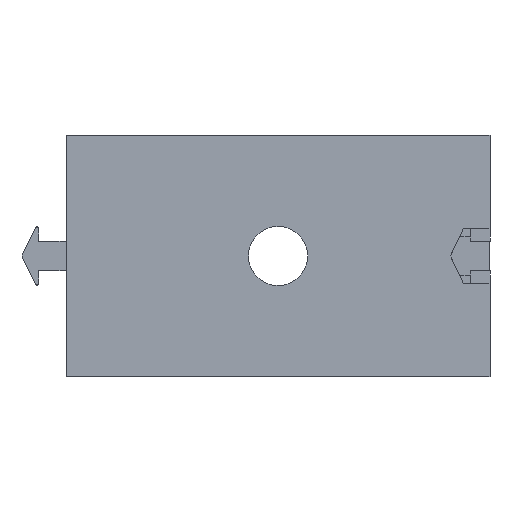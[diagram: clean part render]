
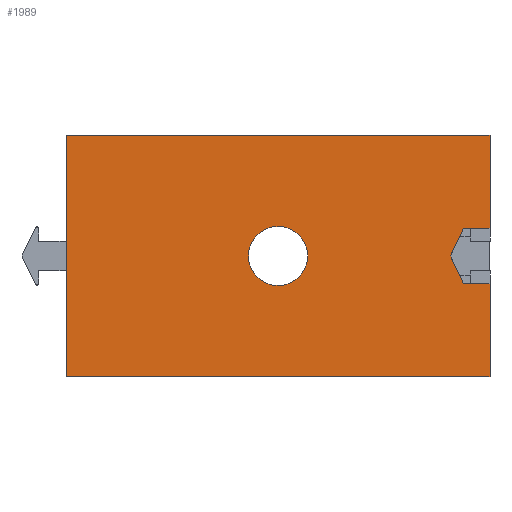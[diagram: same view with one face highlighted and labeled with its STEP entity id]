
A CAD part, front view. The second image highlights one B-rep face of the part: STEP entity #1989.
In plain terms, the highlighted planar face has unit normal (0, -1, 0).
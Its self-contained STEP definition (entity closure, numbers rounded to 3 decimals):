
#108 = VERTEX_POINT ( 'NONE', #2687 ) ;
#109 = ORIENTED_EDGE ( 'NONE', *, *, #1966, .F. ) ;
#296 = VERTEX_POINT ( 'NONE', #3019 ) ;
#299 = EDGE_CURVE ( 'NONE', #296, #309, #3030, .T. ) ;
#309 = VERTEX_POINT ( 'NONE', #3058 ) ;
#316 = VERTEX_POINT ( 'NONE', #3055 ) ;
#344 = VERTEX_POINT ( 'NONE', #3072 ) ;
#350 = EDGE_CURVE ( 'NONE', #316, #344, #3116, .T. ) ;
#355 = VERTEX_POINT ( 'NONE', #3105 ) ;
#359 = VERTEX_POINT ( 'NONE', #3126 ) ;
#360 = EDGE_CURVE ( 'NONE', #359, #355, #3153, .T. ) ;
#739 = VERTEX_POINT ( 'NONE', #3858 ) ;
#759 = EDGE_CURVE ( 'NONE', #739, #770, #3876, .T. ) ;
#770 = VERTEX_POINT ( 'NONE', #3911 ) ;
#782 = ORIENTED_EDGE ( 'NONE', *, *, #299, .T. ) ;
#1952 = EDGE_LOOP ( 'NONE', ( #1955, #1956 ) ) ;
#1953 = ORIENTED_EDGE ( 'NONE', *, *, #1962, .F. ) ;
#1955 = ORIENTED_EDGE ( 'NONE', *, *, #2020, .T. ) ;
#1956 = ORIENTED_EDGE ( 'NONE', *, *, #759, .T. ) ;
#1962 = EDGE_CURVE ( 'NONE', #344, #309, #4648, .T. ) ;
#1966 = EDGE_CURVE ( 'NONE', #355, #108, #4611, .T. ) ;
#1969 = ORIENTED_EDGE ( 'NONE', *, *, #1979, .T. ) ;
#1971 = EDGE_LOOP ( 'NONE', ( #1992, #1988, #1977, #1972, #109, #1987, #1969, #782, #1953 ) ) ;
#1972 = ORIENTED_EDGE ( 'NONE', *, *, #1978, .F. ) ;
#1976 = VERTEX_POINT ( 'NONE', #4644 ) ;
#1977 = ORIENTED_EDGE ( 'NONE', *, *, #1991, .F. ) ;
#1978 = EDGE_CURVE ( 'NONE', #108, #1983, #4702, .T. ) ;
#1979 = EDGE_CURVE ( 'NONE', #359, #296, #4650, .T. ) ;
#1983 = VERTEX_POINT ( 'NONE', #4642 ) ;
#1987 = ORIENTED_EDGE ( 'NONE', *, *, #360, .F. ) ;
#1988 = ORIENTED_EDGE ( 'NONE', *, *, #1990, .F. ) ;
#1989 = ADVANCED_FACE ( 'NONE', ( #4690, #4689 ), #4684, .F. ) ;
#1990 = EDGE_CURVE ( 'NONE', #1976, #316, #4682, .T. ) ;
#1991 = EDGE_CURVE ( 'NONE', #1983, #1976, #4638, .T. ) ;
#1992 = ORIENTED_EDGE ( 'NONE', *, *, #350, .F. ) ;
#2020 = EDGE_CURVE ( 'NONE', #770, #739, #4746, .T. ) ;
#2687 = CARTESIAN_POINT ( 'NONE',  ( 18.806, -26.2, 2.8 ) ) ;
#3011 = DIRECTION ( 'NONE',  ( 0., 0., -1. ) ) ;
#3016 = VECTOR ( 'NONE', #3011, 1000. ) ;
#3019 = CARTESIAN_POINT ( 'NONE',  ( -21.5, -26.2, 12.25 ) ) ;
#3022 = CARTESIAN_POINT ( 'NONE',  ( -21.5, -26.2, 0. ) ) ;
#3030 = LINE ( 'NONE', #3022, #3016 ) ;
#3055 = CARTESIAN_POINT ( 'NONE',  ( 21.5, -26.2, -2.8 ) ) ;
#3058 = CARTESIAN_POINT ( 'NONE',  ( -21.5, -26.2, -12.25 ) ) ;
#3072 = CARTESIAN_POINT ( 'NONE',  ( 21.5, -26.2, -12.25 ) ) ;
#3105 = CARTESIAN_POINT ( 'NONE',  ( 21.5, -26.2, 2.8 ) ) ;
#3111 = DIRECTION ( 'NONE',  ( 0., 0., -1. ) ) ;
#3112 = VECTOR ( 'NONE', #3111, 1000. ) ;
#3113 = CARTESIAN_POINT ( 'NONE',  ( 21.5, -26.2, 0. ) ) ;
#3116 = LINE ( 'NONE', #3113, #3112 ) ;
#3126 = CARTESIAN_POINT ( 'NONE',  ( 21.5, -26.2, 12.25 ) ) ;
#3150 = DIRECTION ( 'NONE',  ( 0., 0., -1. ) ) ;
#3151 = VECTOR ( 'NONE', #3150, 1000. ) ;
#3152 = CARTESIAN_POINT ( 'NONE',  ( 21.5, -26.2, 0. ) ) ;
#3153 = LINE ( 'NONE', #3152, #3151 ) ;
#3858 = CARTESIAN_POINT ( 'NONE',  ( 0., -26.2, -3. ) ) ;
#3863 = DIRECTION ( 'NONE',  ( 0., 0., 1. ) ) ;
#3864 = DIRECTION ( 'NONE',  ( 0., 1., 0. ) ) ;
#3865 = CARTESIAN_POINT ( 'NONE',  ( 0., -26.2, 0. ) ) ;
#3876 = CIRCLE ( 'NONE', #3877, 3. ) ;
#3877 = AXIS2_PLACEMENT_3D ( 'NONE', #3865, #3864, #3863 ) ;
#3911 = CARTESIAN_POINT ( 'NONE',  ( 0., -26.2, 3. ) ) ;
#4611 = LINE ( 'NONE', #4649, #4641 ) ;
#4638 = LINE ( 'NONE', #4673, #4672 ) ;
#4640 = DIRECTION ( 'NONE',  ( -1., 0., 0. ) ) ;
#4641 = VECTOR ( 'NONE', #4640, 1000. ) ;
#4642 = CARTESIAN_POINT ( 'NONE',  ( 17.5, -26.2, 0. ) ) ;
#4643 = CARTESIAN_POINT ( 'NONE',  ( 19.5, -26.2, -2.8 ) ) ;
#4644 = CARTESIAN_POINT ( 'NONE',  ( 18.806, -26.2, -2.8 ) ) ;
#4645 = DIRECTION ( 'NONE',  ( -1., 0., 0. ) ) ;
#4646 = VECTOR ( 'NONE', #4645, 1000. ) ;
#4647 = CARTESIAN_POINT ( 'NONE',  ( 21.5, -26.2, -12.25 ) ) ;
#4648 = LINE ( 'NONE', #4647, #4646 ) ;
#4649 = CARTESIAN_POINT ( 'NONE',  ( 19.5, -26.2, 2.8 ) ) ;
#4650 = LINE ( 'NONE', #4693, #4692 ) ;
#4671 = DIRECTION ( 'NONE',  ( 0.423, 0., -0.906 ) ) ;
#4672 = VECTOR ( 'NONE', #4671, 1000. ) ;
#4673 = CARTESIAN_POINT ( 'NONE',  ( 17.5, -26.2, 0. ) ) ;
#4675 = DIRECTION ( 'NONE',  ( 1., 0., 0. ) ) ;
#4676 = VECTOR ( 'NONE', #4675, 1000. ) ;
#4678 = DIRECTION ( 'NONE',  ( 0., 0., 1. ) ) ;
#4679 = DIRECTION ( 'NONE',  ( 0., 1., 0. ) ) ;
#4680 = CARTESIAN_POINT ( 'NONE',  ( 21.5, -26.2, 0. ) ) ;
#4681 = AXIS2_PLACEMENT_3D ( 'NONE', #4680, #4679, #4678 ) ;
#4682 = LINE ( 'NONE', #4643, #4676 ) ;
#4684 = PLANE ( 'NONE',  #4681 ) ;
#4689 = FACE_BOUND ( 'NONE', #1952, .T. ) ;
#4690 = FACE_OUTER_BOUND ( 'NONE', #1971, .T. ) ;
#4691 = DIRECTION ( 'NONE',  ( -1., 0., 0. ) ) ;
#4692 = VECTOR ( 'NONE', #4691, 1000. ) ;
#4693 = CARTESIAN_POINT ( 'NONE',  ( 21.5, -26.2, 12.25 ) ) ;
#4695 = DIRECTION ( 'NONE',  ( -0.423, 0., -0.906 ) ) ;
#4696 = VECTOR ( 'NONE', #4695, 1000. ) ;
#4697 = CARTESIAN_POINT ( 'NONE',  ( 17.5, -26.2, 0. ) ) ;
#4702 = LINE ( 'NONE', #4697, #4696 ) ;
#4736 = DIRECTION ( 'NONE',  ( 0., 0., 1. ) ) ;
#4737 = DIRECTION ( 'NONE',  ( 0., 1., 0. ) ) ;
#4738 = CARTESIAN_POINT ( 'NONE',  ( 0., -26.2, 0. ) ) ;
#4744 = AXIS2_PLACEMENT_3D ( 'NONE', #4738, #4737, #4736 ) ;
#4746 = CIRCLE ( 'NONE', #4744, 3. ) ;
